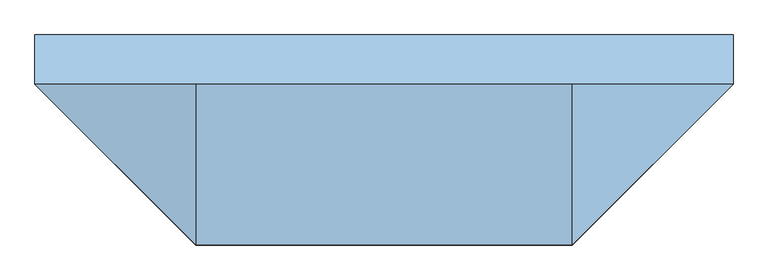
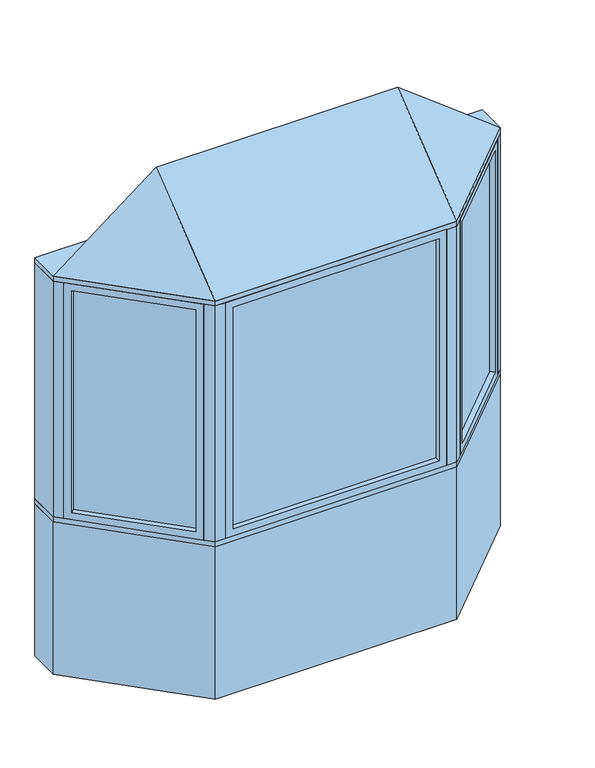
"""IFC4 building model written with IfcOpenShell, lengths in millimetres: window geometry, Pollard_Windows_Tudor Casement Bows and Bays : AML-BAY 45 AFR0612-10-600."""

from ifc_helpers import new_model, si_unit, frame, origin, origin_with_axes, place, context, project, spatial, polyline, outline, extrude, faceted_brep, source, transform, mapped, element, save


def window_5621af8d(model_context):
    return source(origin(), model_context, "Body", "SolidModel", [
        extrude(outline(polyline([(1010.5964271, -104.763169), (614.974814, -500.3847822), (611.3827115, -496.7926797), (1007.0043247, -101.1710666), (1010.5964271, -104.763169)])), frame((0.0, 0.0, 823.1628), z_axis=(0.0, 0.0, 1.0), x_axis=(1.0, 0.0, 0.0)), (0.0, 0.0, 1.0), 1153.6704),
        faceted_brep([(1001.616171, -113.7434252, 835.8628), (1019.5766833, -131.7039374, 835.8628), (1019.5766833, -131.7039374, 1964.1332), (1001.616171, -113.7434252, 1964.1332), (1007.0043247, -101.1710666, 823.1628), (1010.5964271, -104.763169, 823.1628), (1010.5964271, -104.763169, 1976.8332), (1007.0043247, -101.1710666, 1976.8332), (980.0635563, -92.1908105, 835.8628), (998.0240686, -110.1513227, 835.8628), (998.0240686, -110.1513227, 1964.1332), (980.0635563, -92.1908105, 1964.1332), (1044.9369265, -106.3436941, 799.998), (1005.4237996, -66.8305672, 799.998), (1005.4237996, -66.8305672, 1999.998), (1044.9369265, -106.3436941, 1999.998), (641.9155823, -509.3650383, 1964.1332), (623.9550701, -491.4045261, 1964.1332), (614.974814, -500.3847822, 1976.8332), (611.3827115, -496.7926797, 1976.8332), (620.3629677, -487.8124236, 1964.1332), (602.4024554, -469.8519114, 1964.1332), (577.0422121, -495.2121547, 1999.998), (616.5553391, -534.7252816, 1999.998), (641.9155823, -509.3650383, 835.8628), (623.9550701, -491.4045261, 835.8628), (614.974814, -500.3847822, 823.1628), (611.3827115, -496.7926797, 823.1628), (620.3629677, -487.8124236, 835.8628), (602.4024554, -469.8519114, 835.8628), (577.0422121, -495.2121547, 799.998), (616.5553391, -534.7252816, 799.998)], [[[0, 1, 2, 3]], [[4, 5, 6, 7]], [[8, 9, 10, 11]], [[12, 13, 14, 15]], [[3, 2, 16, 17]], [[7, 6, 18, 19]], [[11, 10, 20, 21]], [[15, 14, 22, 23]], [[17, 16, 24, 25]], [[19, 18, 26, 27]], [[21, 20, 28, 29]], [[23, 22, 30, 31]], [[25, 24, 1, 0]], [[5, 26, 18, 6], [3, 17, 25, 0]], [[27, 26, 5, 4]], [[7, 19, 27, 4], [9, 28, 20, 10]], [[29, 28, 9, 8]], [[13, 30, 22, 14], [11, 21, 29, 8]], [[31, 30, 13, 12]], [[15, 23, 31, 12], [1, 24, 16, 2]]]),
        extrude(outline(polyline([(-614.974814, -500.3847822), (-1010.5964271, -104.763169), (-1007.0043247, -101.1710666), (-611.3827115, -496.7926797), (-614.974814, -500.3847822)])), frame((0.0, 0.0, 823.1628), z_axis=(0.0, 0.0, 1.0), x_axis=(1.0, 0.0, 0.0)), (0.0, 0.0, 1.0), 1153.6704),
        faceted_brep([(-620.3629677, -487.8124236, 1964.1332), (-602.4024554, -469.8519114, 1964.1332), (-602.4024554, -469.8519114, 835.8628), (-620.3629677, -487.8124236, 835.8628), (-614.974814, -500.3847822, 1976.8332), (-611.3827115, -496.7926797, 1976.8332), (-611.3827115, -496.7926797, 823.1628), (-614.974814, -500.3847822, 823.1628), (-641.9155823, -509.3650383, 1964.1332), (-623.9550701, -491.4045261, 1964.1332), (-623.9550701, -491.4045261, 835.8628), (-641.9155823, -509.3650383, 835.8628), (-577.0422121, -495.2121547, 1999.998), (-616.5553391, -534.7252816, 1999.998), (-616.5553391, -534.7252816, 799.998), (-577.0422121, -495.2121547, 799.998), (-980.0635563, -92.1908105, 835.8628), (-998.0240686, -110.1513227, 835.8628), (-1007.0043247, -101.1710666, 823.1628), (-1010.5964271, -104.763169, 823.1628), (-1001.616171, -113.7434252, 835.8628), (-1019.5766833, -131.7039374, 835.8628), (-1044.9369265, -106.3436941, 799.998), (-1005.4237996, -66.8305672, 799.998), (-980.0635563, -92.1908105, 1964.1332), (-998.0240686, -110.1513227, 1964.1332), (-1007.0043247, -101.1710666, 1976.8332), (-1010.5964271, -104.763169, 1976.8332), (-1001.616171, -113.7434252, 1964.1332), (-1019.5766833, -131.7039374, 1964.1332), (-1044.9369265, -106.3436941, 1999.998), (-1005.4237996, -66.8305672, 1999.998)], [[[0, 1, 2, 3]], [[4, 5, 6, 7]], [[8, 9, 10, 11]], [[12, 13, 14, 15]], [[3, 2, 16, 17]], [[7, 6, 18, 19]], [[11, 10, 20, 21]], [[15, 14, 22, 23]], [[17, 16, 24, 25]], [[19, 18, 26, 27]], [[21, 20, 28, 29]], [[23, 22, 30, 31]], [[15, 23, 31, 12], [1, 24, 16, 2]], [[25, 24, 1, 0]], [[5, 26, 18, 6], [3, 17, 25, 0]], [[27, 26, 5, 4]], [[7, 19, 27, 4], [9, 28, 20, 10]], [[29, 28, 9, 8]], [[13, 30, 22, 14], [11, 21, 29, 8]], [[31, 30, 13, 12]]]),
        extrude(outline(polyline([(508.0352, -544.6806207), (-508.0352, -544.6806207), (-508.0352, -539.6006207), (508.0352, -539.6006207), (508.0352, -544.6806207)])), frame((0.0, 0.0, 823.1628), z_axis=(0.0, 0.0, 1.0), x_axis=(1.0, 0.0, 0.0)), (0.0, 0.0, 1.0), 1153.6704),
        faceted_brep([(495.3352, -544.6806207, 835.8628), (495.3352, -570.0806207, 835.8628), (495.3352, -570.0806207, 1964.1332), (495.3352, -544.6806207, 1964.1332), (508.0352, -539.6006207, 823.1628), (508.0352, -544.6806207, 823.1628), (508.0352, -544.6806207, 1976.8332), (508.0352, -539.6006207, 1976.8332), (495.3352, -514.2006207, 835.8628), (495.3352, -539.6006207, 835.8628), (495.3352, -539.6006207, 1964.1332), (495.3352, -514.2006207, 1964.1332), (531.2, -570.0806207, 799.998), (531.2, -514.2006207, 799.998), (531.2, -514.2006207, 1999.998), (531.2, -570.0806207, 1999.998), (-495.3352, -570.0806207, 1964.1332), (-495.3352, -544.6806207, 1964.1332), (-508.0352, -544.6806207, 1976.8332), (-508.0352, -539.6006207, 1976.8332), (-495.3352, -539.6006207, 1964.1332), (-495.3352, -514.2006207, 1964.1332), (-531.2, -514.2006207, 1999.998), (-531.2, -570.0806207, 1999.998), (-495.3352, -570.0806207, 835.8628), (-495.3352, -544.6806207, 835.8628), (-508.0352, -544.6806207, 823.1628), (-508.0352, -539.6006207, 823.1628), (-495.3352, -539.6006207, 835.8628), (-495.3352, -514.2006207, 835.8628), (-531.2, -514.2006207, 799.998), (-531.2, -570.0806207, 799.998)], [[[0, 1, 2, 3]], [[4, 5, 6, 7]], [[8, 9, 10, 11]], [[12, 13, 14, 15]], [[3, 2, 16, 17]], [[7, 6, 18, 19]], [[11, 10, 20, 21]], [[15, 14, 22, 23]], [[17, 16, 24, 25]], [[19, 18, 26, 27]], [[21, 20, 28, 29]], [[23, 22, 30, 31]], [[15, 23, 31, 12], [1, 24, 16, 2]], [[25, 24, 1, 0]], [[5, 26, 18, 6], [3, 17, 25, 0]], [[27, 26, 5, 4]], [[7, 19, 27, 4], [9, 28, 20, 10]], [[29, 28, 9, 8]], [[13, 30, 22, 14], [11, 21, 29, 8]], [[31, 30, 13, 12]]]),
        faceted_brep([(1076.5, -74.7806207, 2025.398), (581.2, -570.0806207, 2025.398), (-581.2, -570.0806207, 2025.398), (-1076.5, -74.7806207, 2025.398), (-581.2, -74.7806207, 2406.398), (581.2, -74.7806207, 2406.398)], [[[0, 1, 2, 3]], [[3, 2, 4]], [[2, 1, 5, 4]], [[1, 0, 5]], [[0, 3, 4, 5]]]),
        extrude(outline(polyline([(-1076.5, 77.6193793), (1076.5, 77.6193793), (1076.5, -74.7806207), (581.2, -570.0806207), (-581.2, -570.0806207), (-1076.5, -74.7806207), (-1076.5, 77.6193793)])), frame((0.0, 0.0, 1999.998), z_axis=(0.0, 0.0, 1.0), x_axis=(1.0, 0.0, 0.0)), (0.0, 0.0, 1.0), 25.4),
        extrude(outline(polyline([(-1076.5, -74.7806207), (-1076.5, 77.6193793), (-1013.3738531, 77.6193793), (-1013.3738531, -74.7806207), (-1044.9369265, -106.3436941), (-1076.5, -74.7806207)])), frame((0.0, 0.0, 799.998), z_axis=(0.0, 0.0, 1.0), x_axis=(1.0, 0.0, 0.0)), (0.0, 0.0, 1.0), 1200.0),
        extrude(outline(polyline([(1076.5, 77.6193793), (1076.5, -74.7806207), (1044.9369265, -106.3436941), (1013.3738531, -74.7806207), (1013.3738531, 77.6193793), (1076.5, 77.6193793)])), frame((0.0, 0.0, 799.998), z_axis=(0.0, 0.0, 1.0), x_axis=(1.0, 0.0, 0.0)), (0.0, 0.0, 1.0), 1200.0),
        extrude(outline(polyline([(581.2, -570.0806207), (531.2, -570.0806207), (531.2, -520.0806207), (560.4893219, -520.0806207), (581.2, -499.3699425), (616.5553391, -534.7252816), (581.2, -570.0806207)])), frame((0.0, 0.0, 799.998), z_axis=(0.0, 0.0, 1.0), x_axis=(1.0, 0.0, 0.0)), (0.0, 0.0, 1.0), 1200.0),
        extrude(outline(polyline([(-581.2, -570.0806207), (-616.5553391, -534.7252816), (-581.2, -499.3699425), (-560.4893219, -520.0806207), (-531.2, -520.0806207), (-531.2, -570.0806207), (-581.2, -570.0806207)])), frame((0.0, 0.0, 799.998), z_axis=(0.0, 0.0, 1.0), x_axis=(1.0, 0.0, 0.0)), (0.0, 0.0, 1.0), 1200.0),
        extrude(outline(polyline([(-581.2, -570.0806207), (-1076.5, -74.7806207), (-1076.5, 77.6193793), (-1013.3738531, 77.6193793), (-518.0738531, -417.6806207), (518.0738531, -417.6806207), (1013.3738531, 77.6193793), (1076.5, 77.6193793), (1076.5, -74.7806207), (581.2, -570.0806207), (-581.2, -570.0806207)])), frame((0.0, 0.0, 774.598), z_axis=(0.0, 0.0, 1.0), x_axis=(1.0, 0.0, 0.0)), (0.0, 0.0, 1.0), 25.4),
        extrude(outline(polyline([(-1076.5, -74.7806207), (-1076.5, 77.6193793), (-1013.3738531, 77.6193793), (-518.0738531, -417.6806207), (518.0738531, -417.6806207), (1013.3738531, 77.6193793), (1076.5, 77.6193793), (1076.5, -74.7806207), (581.2, -570.0806207), (-581.2, -570.0806207), (-1076.5, -74.7806207)])), origin_with_axes(), (0.0, 0.0, 1.0), 774.598),
    ])


if __name__ == "__main__":
    model = new_model("IFC4")
    model_context = context("Model", 3, world=origin())
    ifc_project = project(units=[si_unit("LENGTHUNIT", "METRE", prefix="MILLI")], contexts=[model_context])
    site = spatial("IfcSite", under=ifc_project)
    building = spatial("IfcBuilding", under=site)
    placement = place(None, origin())
    window_shape = window_5621af8d(model_context)
    element("IfcWindow", 1, ObjectType="Pollard_Windows_Tudor Casement Bows and Bays : AML-BAY 45 AFR0612-10-600", at=placement, inside=building, context=model_context, shape_type="MappedRepresentation", body=[
        mapped(window_shape, transform((0.0, 0.0, 0.0), x_axis=(1.0, 0.0, 0.0), y_axis=(0.0, 1.0, 0.0), z_axis=(0.0, 0.0, 1.0))),
    ])
    save(model, "model.ifc")
